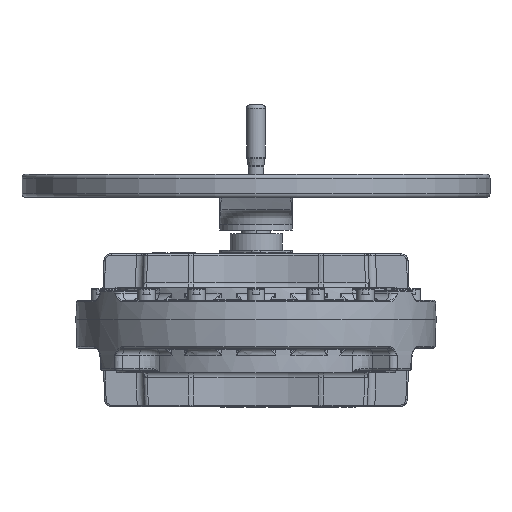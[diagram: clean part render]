
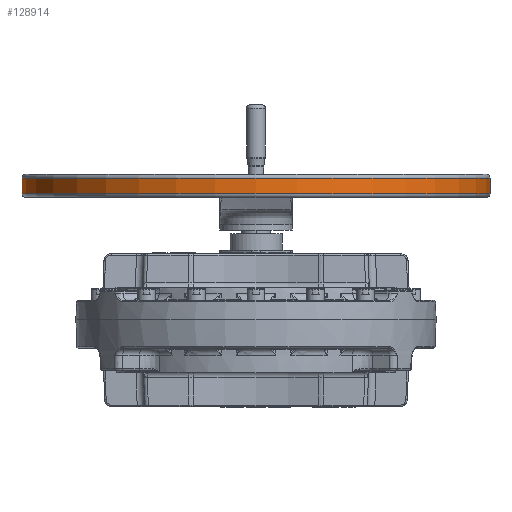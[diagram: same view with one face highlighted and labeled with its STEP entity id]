
A CAD part, front view. The second image highlights one B-rep face of the part: STEP entity #128914.
In plain terms, the highlighted cylindrical face has radius 315 mm (diameter 630 mm), a partial arc.
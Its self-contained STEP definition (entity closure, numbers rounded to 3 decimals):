
#527 = CARTESIAN_POINT ( 'NONE',  ( 0., 976.5, 90.815 ) ) ;
#1213 = FACE_OUTER_BOUND ( 'NONE', #3372, .T. ) ;
#2765 = CARTESIAN_POINT ( 'NONE',  ( -315., 976.5, 169.76 ) ) ;
#3106 = DIRECTION ( 'NONE',  ( -1., 0., 0. ) ) ;
#3372 = EDGE_LOOP ( 'NONE', ( #112783, #34027, #142721, #43013 ) ) ;
#13128 = DIRECTION ( 'NONE',  ( 0., 0., -1. ) ) ;
#19724 = EDGE_CURVE ( 'NONE', #150302, #103720, #52528, .T. ) ;
#21007 = CARTESIAN_POINT ( 'NONE',  ( -315., 976.5, 190.76 ) ) ;
#21254 = EDGE_CURVE ( 'NONE', #103720, #109456, #69270, .T. ) ;
#21840 = CARTESIAN_POINT ( 'NONE',  ( 315., 976.5, 169.76 ) ) ;
#34017 = CARTESIAN_POINT ( 'NONE',  ( 0., 976.5, 190.76 ) ) ;
#34027 = ORIENTED_EDGE ( 'NONE', *, *, #19724, .T. ) ;
#38811 = VERTEX_POINT ( 'NONE', #21840 ) ;
#43013 = ORIENTED_EDGE ( 'NONE', *, *, #88534, .F. ) ;
#46566 = DIRECTION ( 'NONE',  ( -1., 0., 0. ) ) ;
#50424 = AXIS2_PLACEMENT_3D ( 'NONE', #153233, #78123, #3106 ) ;
#52528 = CIRCLE ( 'NONE', #116006, 315. ) ;
#56600 = CARTESIAN_POINT ( 'NONE',  ( 315., 976.5, 90.815 ) ) ;
#68717 = DIRECTION ( 'NONE',  ( 0., 0., -1. ) ) ;
#69270 = LINE ( 'NONE', #107941, #132032 ) ;
#78123 = DIRECTION ( 'NONE',  ( 0., 0., -1. ) ) ;
#81390 = EDGE_CURVE ( 'NONE', #150302, #38811, #87176, .T. ) ;
#87176 = LINE ( 'NONE', #56600, #149953 ) ;
#87590 = CYLINDRICAL_SURFACE ( 'NONE', #109039, 315. ) ;
#88534 = EDGE_CURVE ( 'NONE', #38811, #109456, #107288, .T. ) ;
#95299 = DIRECTION ( 'NONE',  ( 0., 0., -1. ) ) ;
#103720 = VERTEX_POINT ( 'NONE', #21007 ) ;
#107288 = CIRCLE ( 'NONE', #50424, 315. ) ;
#107941 = CARTESIAN_POINT ( 'NONE',  ( -315., 976.5, 90.815 ) ) ;
#108462 = CARTESIAN_POINT ( 'NONE',  ( 315., 976.5, 190.76 ) ) ;
#109039 = AXIS2_PLACEMENT_3D ( 'NONE', #527, #13128, #151145 ) ;
#109456 = VERTEX_POINT ( 'NONE', #2765 ) ;
#112783 = ORIENTED_EDGE ( 'NONE', *, *, #81390, .F. ) ;
#116006 = AXIS2_PLACEMENT_3D ( 'NONE', #34017, #121616, #46566 ) ;
#121616 = DIRECTION ( 'NONE',  ( 0., 0., -1. ) ) ;
#128914 = ADVANCED_FACE ( 'NONE', ( #1213 ), #87590, .T. ) ;
#132032 = VECTOR ( 'NONE', #95299, 1000. ) ;
#142721 = ORIENTED_EDGE ( 'NONE', *, *, #21254, .T. ) ;
#149953 = VECTOR ( 'NONE', #68717, 1000. ) ;
#150302 = VERTEX_POINT ( 'NONE', #108462 ) ;
#151145 = DIRECTION ( 'NONE',  ( -1., 0., 0. ) ) ;
#153233 = CARTESIAN_POINT ( 'NONE',  ( 0., 976.5, 169.76 ) ) ;
